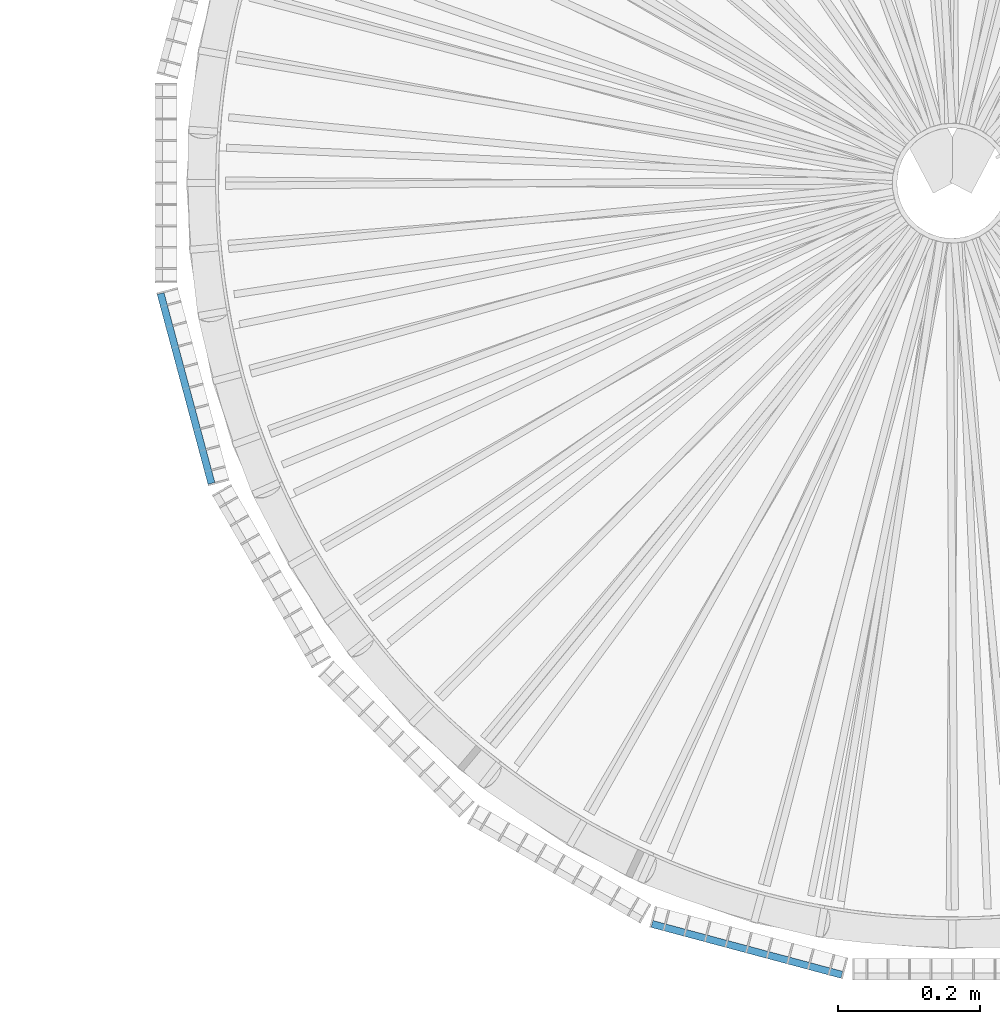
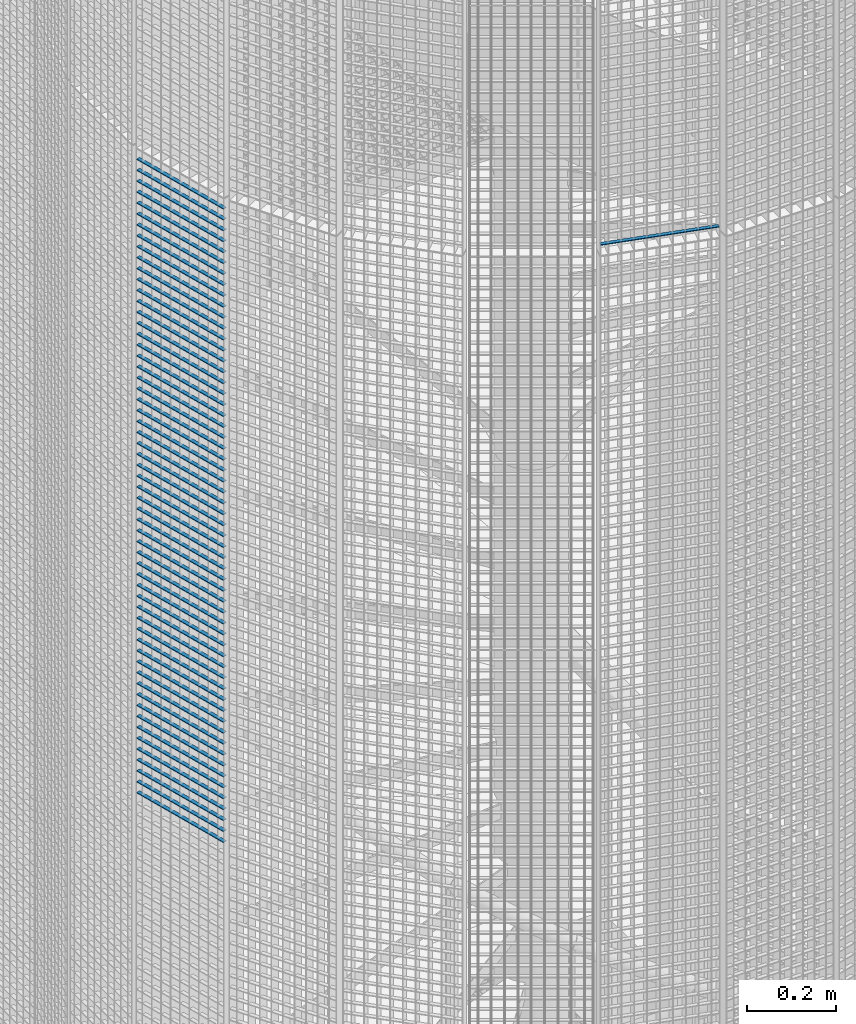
# One storey, part 332 of 1148: 60 beams, 2 elements without a shape of their own.
"""IFC2X3 building model written with IfcOpenShell, lengths in millimetres."""

from ifc_helpers import new_model, si_unit, frame, origin_with_axes, origin_2d_with_axis, place, context, subcontext, project, spatial, rectangle, extrude, material, type_object, element, aggregate, save


model = new_model("IFC2X3")

# Units and contexts
model_context = context("Model", 3, precision=1e-05, world=origin_with_axes())
body_context = subcontext(model_context, "Body", "Model", "MODEL_VIEW")
ifc_project = project(units=[si_unit("LENGTHUNIT", "METRE", prefix="MILLI"), si_unit("AREAUNIT", "SQUARE_METRE"), si_unit("VOLUMEUNIT", "CUBIC_METRE"), si_unit("MASSUNIT", "GRAM", prefix="KILO"), si_unit("TIMEUNIT", "SECOND"), si_unit("PLANEANGLEUNIT", "RADIAN"), si_unit("SOLIDANGLEUNIT", "STERADIAN"), si_unit("THERMODYNAMICTEMPERATUREUNIT", "DEGREE_CELSIUS"), si_unit("LUMINOUSINTENSITYUNIT", "LUMEN")], contexts=[model_context])

# Site, building, storey
site_placement = place(None, origin_with_axes())
site = spatial("IfcSite", under=ifc_project, at=site_placement, Name="Undefined", CompositionType="ELEMENT")
building_placement = place(site_placement, origin_with_axes())
building = spatial("IfcBuilding", under=site, at=building_placement, Name="Undefined", CompositionType="ELEMENT")
storey_placement = place(building_placement, origin_with_axes())
storey = spatial("IfcBuildingStorey", under=building, at=storey_placement, Name="Undefined", CompositionType="ELEMENT", Elevation=0.0)

# Assembly, beam
assembly_1_placement = place(storey_placement, origin_with_axes())
assembly_1 = element("IfcElementAssembly", 1, at=assembly_1_placement, inside=storey, Name="BORDURE", AssemblyPlace="NOTDEFINED", PredefinedType="NOTDEFINED")
ifc_material = material(Name="STEEL/S235JR")
beam_type = type_object("IfcBeamType", Name="PL2*10", PredefinedType="NOTDEFINED")
beam_1_placement = place(assembly_1_placement, frame((21445.1040732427, -1111.25508286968, 15030.0), z_axis=(-0.258819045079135, -0.965925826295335, 0.0), x_axis=(-0.965925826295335, 0.258819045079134, 0.0)))
beam_1 = element("IfcBeam", 2, at=beam_1_placement, type_object=beam_type, material=ifc_material, Name="ENTRETOISE", context=body_context, shape_type="SweptSolid", body=[
    extrude(rectangle(XDim=2.0, YDim=10.0, at=origin_2d_with_axis()), frame((275.999999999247, 9.09494701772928e-13, 1.53210777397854e-14), z_axis=(-1.0, 0.0, 0.0), x_axis=(0.0, -1.0, 0.0)), (0.0, 0.0, 1.0), 276.0),
])
aggregate(assembly_1, [beam_1])

# Assembly, beams
assembly_2_placement = place(storey_placement, origin_with_axes())
assembly_2 = element("IfcElementAssembly", 3, at=assembly_2_placement, inside=storey, Name="BORDURE", AssemblyPlace="NOTDEFINED", PredefinedType="NOTDEFINED")
beam_2_placement = place(assembly_2_placement, frame((20560.1769047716, -421.483733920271, 14970.0), z_axis=(-0.965925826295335, -0.258819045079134, 0.0), x_axis=(-0.258819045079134, 0.965925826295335, 0.0)))
beam_2 = element("IfcBeam", 4, at=beam_2_placement, type_object=beam_type, material=ifc_material, Name="ENTRETOISE", context=body_context, shape_type="SweptSolid", body=[
    extrude(rectangle(XDim=2.0, YDim=10.0, at=origin_2d_with_axis()), frame((275.999999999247, 9.09494701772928e-13, 1.53210777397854e-14), z_axis=(-1.0, 0.0, 0.0), x_axis=(0.0, -1.0, 0.0)), (0.0, 0.0, 1.0), 276.0),
])
beam_3_placement = place(assembly_2_placement, frame((20560.1769047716, -421.483733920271, 14940.0), z_axis=(-0.965925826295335, -0.258819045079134, 0.0), x_axis=(-0.258819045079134, 0.965925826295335, 0.0)))
beam_3 = element("IfcBeam", 5, at=beam_3_placement, type_object=beam_type, material=ifc_material, Name="ENTRETOISE", context=body_context, shape_type="SweptSolid", body=[
    extrude(rectangle(XDim=2.0, YDim=10.0, at=origin_2d_with_axis()), frame((275.999999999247, 9.09494701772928e-13, 1.53210777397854e-14), z_axis=(-1.0, 0.0, 0.0), x_axis=(0.0, -1.0, 0.0)), (0.0, 0.0, 1.0), 276.0),
])
beam_4_placement = place(assembly_2_placement, frame((20560.1769047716, -421.483733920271, 14910.0), z_axis=(-0.965925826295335, -0.258819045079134, 0.0), x_axis=(-0.258819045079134, 0.965925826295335, 0.0)))
beam_4 = element("IfcBeam", 6, at=beam_4_placement, type_object=beam_type, material=ifc_material, Name="ENTRETOISE", context=body_context, shape_type="SweptSolid", body=[
    extrude(rectangle(XDim=2.0, YDim=10.0, at=origin_2d_with_axis()), frame((275.999999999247, 9.09494701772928e-13, 1.53210777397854e-14), z_axis=(-1.0, 0.0, 0.0), x_axis=(0.0, -1.0, 0.0)), (0.0, 0.0, 1.0), 276.0),
])
beam_5_placement = place(assembly_2_placement, frame((20560.1769047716, -421.483733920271, 14880.0), z_axis=(-0.965925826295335, -0.258819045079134, 0.0), x_axis=(-0.258819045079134, 0.965925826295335, 0.0)))
beam_5 = element("IfcBeam", 7, at=beam_5_placement, type_object=beam_type, material=ifc_material, Name="ENTRETOISE", context=body_context, shape_type="SweptSolid", body=[
    extrude(rectangle(XDim=2.0, YDim=10.0, at=origin_2d_with_axis()), frame((275.999999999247, 9.09494701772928e-13, 1.53210777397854e-14), z_axis=(-1.0, 0.0, 0.0), x_axis=(0.0, -1.0, 0.0)), (0.0, 0.0, 1.0), 276.0),
])
beam_6_placement = place(assembly_2_placement, frame((20560.1769047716, -421.483733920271, 14850.0), z_axis=(-0.965925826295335, -0.258819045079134, 0.0), x_axis=(-0.258819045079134, 0.965925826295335, 0.0)))
beam_6 = element("IfcBeam", 8, at=beam_6_placement, type_object=beam_type, material=ifc_material, Name="ENTRETOISE", context=body_context, shape_type="SweptSolid", body=[
    extrude(rectangle(XDim=2.0, YDim=10.0, at=origin_2d_with_axis()), frame((275.999999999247, 9.09494701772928e-13, 1.53210777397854e-14), z_axis=(-1.0, 0.0, 0.0), x_axis=(0.0, -1.0, 0.0)), (0.0, 0.0, 1.0), 276.0),
])
beam_7_placement = place(assembly_2_placement, frame((20560.1769047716, -421.483733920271, 14820.0), z_axis=(-0.965925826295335, -0.258819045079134, 0.0), x_axis=(-0.258819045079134, 0.965925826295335, 0.0)))
beam_7 = element("IfcBeam", 9, at=beam_7_placement, type_object=beam_type, material=ifc_material, Name="ENTRETOISE", context=body_context, shape_type="SweptSolid", body=[
    extrude(rectangle(XDim=2.0, YDim=10.0, at=origin_2d_with_axis()), frame((275.999999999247, 9.09494701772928e-13, 1.53210777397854e-14), z_axis=(-1.0, 0.0, 0.0), x_axis=(0.0, -1.0, 0.0)), (0.0, 0.0, 1.0), 276.0),
])
beam_8_placement = place(assembly_2_placement, frame((20560.1769047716, -421.483733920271, 14790.0), z_axis=(-0.965925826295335, -0.258819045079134, 0.0), x_axis=(-0.258819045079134, 0.965925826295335, 0.0)))
beam_8 = element("IfcBeam", 10, at=beam_8_placement, type_object=beam_type, material=ifc_material, Name="ENTRETOISE", context=body_context, shape_type="SweptSolid", body=[
    extrude(rectangle(XDim=2.0, YDim=10.0, at=origin_2d_with_axis()), frame((275.999999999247, 9.09494701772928e-13, 1.53210777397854e-14), z_axis=(-1.0, 0.0, 0.0), x_axis=(0.0, -1.0, 0.0)), (0.0, 0.0, 1.0), 276.0),
])
beam_9_placement = place(assembly_2_placement, frame((20560.1769047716, -421.483733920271, 14760.0), z_axis=(-0.965925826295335, -0.258819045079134, 0.0), x_axis=(-0.258819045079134, 0.965925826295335, 0.0)))
beam_9 = element("IfcBeam", 11, at=beam_9_placement, type_object=beam_type, material=ifc_material, Name="ENTRETOISE", context=body_context, shape_type="SweptSolid", body=[
    extrude(rectangle(XDim=2.0, YDim=10.0, at=origin_2d_with_axis()), frame((275.999999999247, 9.09494701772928e-13, 1.53210777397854e-14), z_axis=(-1.0, 0.0, 0.0), x_axis=(0.0, -1.0, 0.0)), (0.0, 0.0, 1.0), 276.0),
])
beam_10_placement = place(assembly_2_placement, frame((20560.1769047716, -421.48373392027, 14730.0), z_axis=(-0.965925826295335, -0.258819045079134, 0.0), x_axis=(-0.258819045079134, 0.965925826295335, 0.0)))
beam_10 = element("IfcBeam", 12, at=beam_10_placement, type_object=beam_type, material=ifc_material, Name="ENTRETOISE", context=body_context, shape_type="SweptSolid", body=[
    extrude(rectangle(XDim=2.0, YDim=10.0, at=origin_2d_with_axis()), frame((275.999999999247, 9.09494701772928e-13, 1.53210777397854e-14), z_axis=(-1.0, 0.0, 0.0), x_axis=(0.0, -1.0, 0.0)), (0.0, 0.0, 1.0), 276.0),
])
beam_11_placement = place(assembly_2_placement, frame((20560.1769047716, -421.48373392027, 14700.0), z_axis=(-0.965925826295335, -0.258819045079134, 0.0), x_axis=(-0.258819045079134, 0.965925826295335, 0.0)))
beam_11 = element("IfcBeam", 13, at=beam_11_placement, type_object=beam_type, material=ifc_material, Name="ENTRETOISE", context=body_context, shape_type="SweptSolid", body=[
    extrude(rectangle(XDim=2.0, YDim=10.0, at=origin_2d_with_axis()), frame((275.999999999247, 9.09494701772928e-13, 1.53210777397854e-14), z_axis=(-1.0, 0.0, 0.0), x_axis=(0.0, -1.0, 0.0)), (0.0, 0.0, 1.0), 276.0),
])
beam_12_placement = place(assembly_2_placement, frame((20560.1769047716, -421.48373392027, 14670.0), z_axis=(-0.965925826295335, -0.258819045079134, 0.0), x_axis=(-0.258819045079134, 0.965925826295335, 0.0)))
beam_12 = element("IfcBeam", 14, at=beam_12_placement, type_object=beam_type, material=ifc_material, Name="ENTRETOISE", context=body_context, shape_type="SweptSolid", body=[
    extrude(rectangle(XDim=2.0, YDim=10.0, at=origin_2d_with_axis()), frame((275.999999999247, 9.09494701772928e-13, 1.53210777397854e-14), z_axis=(-1.0, 0.0, 0.0), x_axis=(0.0, -1.0, 0.0)), (0.0, 0.0, 1.0), 276.0),
])
beam_13_placement = place(assembly_2_placement, frame((20560.1769047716, -421.48373392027, 14640.0), z_axis=(-0.965925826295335, -0.258819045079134, 0.0), x_axis=(-0.258819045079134, 0.965925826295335, 0.0)))
beam_13 = element("IfcBeam", 15, at=beam_13_placement, type_object=beam_type, material=ifc_material, Name="ENTRETOISE", context=body_context, shape_type="SweptSolid", body=[
    extrude(rectangle(XDim=2.0, YDim=10.0, at=origin_2d_with_axis()), frame((275.999999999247, 9.09494701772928e-13, 1.53210777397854e-14), z_axis=(-1.0, 0.0, 0.0), x_axis=(0.0, -1.0, 0.0)), (0.0, 0.0, 1.0), 276.0),
])
beam_14_placement = place(assembly_2_placement, frame((20560.1769047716, -421.48373392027, 14610.0), z_axis=(-0.965925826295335, -0.258819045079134, 0.0), x_axis=(-0.258819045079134, 0.965925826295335, 0.0)))
beam_14 = element("IfcBeam", 16, at=beam_14_placement, type_object=beam_type, material=ifc_material, Name="ENTRETOISE", context=body_context, shape_type="SweptSolid", body=[
    extrude(rectangle(XDim=2.0, YDim=10.0, at=origin_2d_with_axis()), frame((275.999999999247, 9.09494701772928e-13, 1.53210777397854e-14), z_axis=(-1.0, 0.0, 0.0), x_axis=(0.0, -1.0, 0.0)), (0.0, 0.0, 1.0), 276.0),
])
beam_15_placement = place(assembly_2_placement, frame((20560.1769047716, -421.48373392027, 14580.0), z_axis=(-0.965925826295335, -0.258819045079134, 0.0), x_axis=(-0.258819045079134, 0.965925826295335, 0.0)))
beam_15 = element("IfcBeam", 17, at=beam_15_placement, type_object=beam_type, material=ifc_material, Name="ENTRETOISE", context=body_context, shape_type="SweptSolid", body=[
    extrude(rectangle(XDim=2.0, YDim=10.0, at=origin_2d_with_axis()), frame((275.999999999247, 9.09494701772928e-13, 1.53210777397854e-14), z_axis=(-1.0, 0.0, 0.0), x_axis=(0.0, -1.0, 0.0)), (0.0, 0.0, 1.0), 276.0),
])
beam_16_placement = place(assembly_2_placement, frame((20560.1769047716, -421.48373392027, 14550.0), z_axis=(-0.965925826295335, -0.258819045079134, 0.0), x_axis=(-0.258819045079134, 0.965925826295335, 0.0)))
beam_16 = element("IfcBeam", 18, at=beam_16_placement, type_object=beam_type, material=ifc_material, Name="ENTRETOISE", context=body_context, shape_type="SweptSolid", body=[
    extrude(rectangle(XDim=2.0, YDim=10.0, at=origin_2d_with_axis()), frame((275.999999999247, 9.09494701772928e-13, 1.53210777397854e-14), z_axis=(-1.0, 0.0, 0.0), x_axis=(0.0, -1.0, 0.0)), (0.0, 0.0, 1.0), 276.0),
])
beam_17_placement = place(assembly_2_placement, frame((20560.1769047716, -421.48373392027, 14520.0), z_axis=(-0.965925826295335, -0.258819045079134, 0.0), x_axis=(-0.258819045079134, 0.965925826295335, 0.0)))
beam_17 = element("IfcBeam", 19, at=beam_17_placement, type_object=beam_type, material=ifc_material, Name="ENTRETOISE", context=body_context, shape_type="SweptSolid", body=[
    extrude(rectangle(XDim=2.0, YDim=10.0, at=origin_2d_with_axis()), frame((275.999999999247, 9.09494701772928e-13, 1.53210777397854e-14), z_axis=(-1.0, 0.0, 0.0), x_axis=(0.0, -1.0, 0.0)), (0.0, 0.0, 1.0), 276.0),
])
beam_18_placement = place(assembly_2_placement, frame((20560.1769047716, -421.48373392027, 14490.0), z_axis=(-0.965925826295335, -0.258819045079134, 0.0), x_axis=(-0.258819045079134, 0.965925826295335, 0.0)))
beam_18 = element("IfcBeam", 20, at=beam_18_placement, type_object=beam_type, material=ifc_material, Name="ENTRETOISE", context=body_context, shape_type="SweptSolid", body=[
    extrude(rectangle(XDim=2.0, YDim=10.0, at=origin_2d_with_axis()), frame((275.999999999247, 9.09494701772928e-13, 1.53210777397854e-14), z_axis=(-1.0, 0.0, 0.0), x_axis=(0.0, -1.0, 0.0)), (0.0, 0.0, 1.0), 276.0),
])
beam_19_placement = place(assembly_2_placement, frame((20560.1769047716, -421.483733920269, 14460.0), z_axis=(-0.965925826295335, -0.258819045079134, 0.0), x_axis=(-0.258819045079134, 0.965925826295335, 0.0)))
beam_19 = element("IfcBeam", 21, at=beam_19_placement, type_object=beam_type, material=ifc_material, Name="ENTRETOISE", context=body_context, shape_type="SweptSolid", body=[
    extrude(rectangle(XDim=2.0, YDim=10.0, at=origin_2d_with_axis()), frame((275.999999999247, 9.09494701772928e-13, 1.53210777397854e-14), z_axis=(-1.0, 0.0, 0.0), x_axis=(0.0, -1.0, 0.0)), (0.0, 0.0, 1.0), 276.0),
])
beam_20_placement = place(assembly_2_placement, frame((20560.1769047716, -421.483733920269, 14430.0), z_axis=(-0.965925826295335, -0.258819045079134, 0.0), x_axis=(-0.258819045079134, 0.965925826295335, 0.0)))
beam_20 = element("IfcBeam", 22, at=beam_20_placement, type_object=beam_type, material=ifc_material, Name="ENTRETOISE", context=body_context, shape_type="SweptSolid", body=[
    extrude(rectangle(XDim=2.0, YDim=10.0, at=origin_2d_with_axis()), frame((275.999999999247, 9.09494701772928e-13, 1.53210777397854e-14), z_axis=(-1.0, 0.0, 0.0), x_axis=(0.0, -1.0, 0.0)), (0.0, 0.0, 1.0), 276.0),
])
beam_21_placement = place(assembly_2_placement, frame((20560.1769047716, -421.483733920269, 14400.0), z_axis=(-0.965925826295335, -0.258819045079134, 0.0), x_axis=(-0.258819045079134, 0.965925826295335, 0.0)))
beam_21 = element("IfcBeam", 23, at=beam_21_placement, type_object=beam_type, material=ifc_material, Name="ENTRETOISE", context=body_context, shape_type="SweptSolid", body=[
    extrude(rectangle(XDim=2.0, YDim=10.0, at=origin_2d_with_axis()), frame((275.999999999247, 9.09494701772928e-13, 1.53210777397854e-14), z_axis=(-1.0, 0.0, 0.0), x_axis=(0.0, -1.0, 0.0)), (0.0, 0.0, 1.0), 276.0),
])
beam_22_placement = place(assembly_2_placement, frame((20560.1769047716, -421.483733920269, 14370.0), z_axis=(-0.965925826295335, -0.258819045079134, 0.0), x_axis=(-0.258819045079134, 0.965925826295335, 0.0)))
beam_22 = element("IfcBeam", 24, at=beam_22_placement, type_object=beam_type, material=ifc_material, Name="ENTRETOISE", context=body_context, shape_type="SweptSolid", body=[
    extrude(rectangle(XDim=2.0, YDim=10.0, at=origin_2d_with_axis()), frame((275.999999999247, 9.09494701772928e-13, 1.53210777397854e-14), z_axis=(-1.0, 0.0, 0.0), x_axis=(0.0, -1.0, 0.0)), (0.0, 0.0, 1.0), 276.0),
])
beam_23_placement = place(assembly_2_placement, frame((20560.1769047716, -421.483733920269, 14340.0), z_axis=(-0.965925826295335, -0.258819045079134, 0.0), x_axis=(-0.258819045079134, 0.965925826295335, 0.0)))
beam_23 = element("IfcBeam", 25, at=beam_23_placement, type_object=beam_type, material=ifc_material, Name="ENTRETOISE", context=body_context, shape_type="SweptSolid", body=[
    extrude(rectangle(XDim=2.0, YDim=10.0, at=origin_2d_with_axis()), frame((275.999999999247, 9.09494701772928e-13, 1.53210777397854e-14), z_axis=(-1.0, 0.0, 0.0), x_axis=(0.0, -1.0, 0.0)), (0.0, 0.0, 1.0), 276.0),
])
beam_24_placement = place(assembly_2_placement, frame((20560.1769047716, -421.483733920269, 14310.0), z_axis=(-0.965925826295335, -0.258819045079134, 0.0), x_axis=(-0.258819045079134, 0.965925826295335, 0.0)))
beam_24 = element("IfcBeam", 26, at=beam_24_placement, type_object=beam_type, material=ifc_material, Name="ENTRETOISE", context=body_context, shape_type="SweptSolid", body=[
    extrude(rectangle(XDim=2.0, YDim=10.0, at=origin_2d_with_axis()), frame((275.999999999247, 9.09494701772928e-13, 1.53210777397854e-14), z_axis=(-1.0, 0.0, 0.0), x_axis=(0.0, -1.0, 0.0)), (0.0, 0.0, 1.0), 276.0),
])
beam_25_placement = place(assembly_2_placement, frame((20560.1769047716, -421.483733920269, 14280.0), z_axis=(-0.965925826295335, -0.258819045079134, 0.0), x_axis=(-0.258819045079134, 0.965925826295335, 0.0)))
beam_25 = element("IfcBeam", 27, at=beam_25_placement, type_object=beam_type, material=ifc_material, Name="ENTRETOISE", context=body_context, shape_type="SweptSolid", body=[
    extrude(rectangle(XDim=2.0, YDim=10.0, at=origin_2d_with_axis()), frame((275.999999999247, 9.09494701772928e-13, 1.53210777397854e-14), z_axis=(-1.0, 0.0, 0.0), x_axis=(0.0, -1.0, 0.0)), (0.0, 0.0, 1.0), 276.0),
])
beam_26_placement = place(assembly_2_placement, frame((20560.1769047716, -421.483733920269, 14250.0), z_axis=(-0.965925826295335, -0.258819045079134, 0.0), x_axis=(-0.258819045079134, 0.965925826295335, 0.0)))
beam_26 = element("IfcBeam", 28, at=beam_26_placement, type_object=beam_type, material=ifc_material, Name="ENTRETOISE", context=body_context, shape_type="SweptSolid", body=[
    extrude(rectangle(XDim=2.0, YDim=10.0, at=origin_2d_with_axis()), frame((275.999999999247, 9.09494701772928e-13, 1.53210777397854e-14), z_axis=(-1.0, 0.0, 0.0), x_axis=(0.0, -1.0, 0.0)), (0.0, 0.0, 1.0), 276.0),
])
beam_27_placement = place(assembly_2_placement, frame((20560.1769047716, -421.483733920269, 14220.0), z_axis=(-0.965925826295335, -0.258819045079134, 0.0), x_axis=(-0.258819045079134, 0.965925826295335, 0.0)))
beam_27 = element("IfcBeam", 29, at=beam_27_placement, type_object=beam_type, material=ifc_material, Name="ENTRETOISE", context=body_context, shape_type="SweptSolid", body=[
    extrude(rectangle(XDim=2.0, YDim=10.0, at=origin_2d_with_axis()), frame((275.999999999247, 9.09494701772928e-13, 1.53210777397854e-14), z_axis=(-1.0, 0.0, 0.0), x_axis=(0.0, -1.0, 0.0)), (0.0, 0.0, 1.0), 276.0),
])
beam_28_placement = place(assembly_2_placement, frame((20560.1769047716, -421.483733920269, 14190.0), z_axis=(-0.965925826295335, -0.258819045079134, 0.0), x_axis=(-0.258819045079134, 0.965925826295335, 0.0)))
beam_28 = element("IfcBeam", 30, at=beam_28_placement, type_object=beam_type, material=ifc_material, Name="ENTRETOISE", context=body_context, shape_type="SweptSolid", body=[
    extrude(rectangle(XDim=2.0, YDim=10.0, at=origin_2d_with_axis()), frame((275.999999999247, 9.09494701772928e-13, 1.53210777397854e-14), z_axis=(-1.0, 0.0, 0.0), x_axis=(0.0, -1.0, 0.0)), (0.0, 0.0, 1.0), 276.0),
])
beam_29_placement = place(assembly_2_placement, frame((20560.1769047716, -421.483733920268, 14160.0), z_axis=(-0.965925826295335, -0.258819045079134, 0.0), x_axis=(-0.258819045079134, 0.965925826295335, 0.0)))
beam_29 = element("IfcBeam", 31, at=beam_29_placement, type_object=beam_type, material=ifc_material, Name="ENTRETOISE", context=body_context, shape_type="SweptSolid", body=[
    extrude(rectangle(XDim=2.0, YDim=10.0, at=origin_2d_with_axis()), frame((275.999999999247, 9.09494701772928e-13, 1.53210777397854e-14), z_axis=(-1.0, 0.0, 0.0), x_axis=(0.0, -1.0, 0.0)), (0.0, 0.0, 1.0), 276.0),
])
beam_30_placement = place(assembly_2_placement, frame((20560.1769047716, -421.483733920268, 14130.0), z_axis=(-0.965925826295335, -0.258819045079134, 0.0), x_axis=(-0.258819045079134, 0.965925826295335, 0.0)))
beam_30 = element("IfcBeam", 32, at=beam_30_placement, type_object=beam_type, material=ifc_material, Name="ENTRETOISE", context=body_context, shape_type="SweptSolid", body=[
    extrude(rectangle(XDim=2.0, YDim=10.0, at=origin_2d_with_axis()), frame((275.999999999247, 9.09494701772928e-13, 1.53210777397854e-14), z_axis=(-1.0, 0.0, 0.0), x_axis=(0.0, -1.0, 0.0)), (0.0, 0.0, 1.0), 276.0),
])
beam_31_placement = place(assembly_2_placement, frame((20560.1769047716, -421.483733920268, 14100.0), z_axis=(-0.965925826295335, -0.258819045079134, 0.0), x_axis=(-0.258819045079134, 0.965925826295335, 0.0)))
beam_31 = element("IfcBeam", 33, at=beam_31_placement, type_object=beam_type, material=ifc_material, Name="ENTRETOISE", context=body_context, shape_type="SweptSolid", body=[
    extrude(rectangle(XDim=2.0, YDim=10.0, at=origin_2d_with_axis()), frame((275.999999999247, 9.09494701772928e-13, 1.53210777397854e-14), z_axis=(-1.0, 0.0, 0.0), x_axis=(0.0, -1.0, 0.0)), (0.0, 0.0, 1.0), 276.0),
])
beam_32_placement = place(assembly_2_placement, frame((20560.1769047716, -421.483733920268, 14070.0), z_axis=(-0.965925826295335, -0.258819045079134, 0.0), x_axis=(-0.258819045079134, 0.965925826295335, 0.0)))
beam_32 = element("IfcBeam", 34, at=beam_32_placement, type_object=beam_type, material=ifc_material, Name="ENTRETOISE", context=body_context, shape_type="SweptSolid", body=[
    extrude(rectangle(XDim=2.0, YDim=10.0, at=origin_2d_with_axis()), frame((275.999999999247, 9.09494701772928e-13, 1.53210777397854e-14), z_axis=(-1.0, 0.0, 0.0), x_axis=(0.0, -1.0, 0.0)), (0.0, 0.0, 1.0), 276.0),
])
beam_33_placement = place(assembly_2_placement, frame((20560.1769047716, -421.483733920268, 14040.0), z_axis=(-0.965925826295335, -0.258819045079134, 0.0), x_axis=(-0.258819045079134, 0.965925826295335, 0.0)))
beam_33 = element("IfcBeam", 35, at=beam_33_placement, type_object=beam_type, material=ifc_material, Name="ENTRETOISE", context=body_context, shape_type="SweptSolid", body=[
    extrude(rectangle(XDim=2.0, YDim=10.0, at=origin_2d_with_axis()), frame((275.999999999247, 9.09494701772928e-13, 1.53210777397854e-14), z_axis=(-1.0, 0.0, 0.0), x_axis=(0.0, -1.0, 0.0)), (0.0, 0.0, 1.0), 276.0),
])
beam_34_placement = place(assembly_2_placement, frame((20560.1769047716, -421.483733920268, 14010.0), z_axis=(-0.965925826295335, -0.258819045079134, 0.0), x_axis=(-0.258819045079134, 0.965925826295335, 0.0)))
beam_34 = element("IfcBeam", 36, at=beam_34_placement, type_object=beam_type, material=ifc_material, Name="ENTRETOISE", context=body_context, shape_type="SweptSolid", body=[
    extrude(rectangle(XDim=2.0, YDim=10.0, at=origin_2d_with_axis()), frame((275.999999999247, 9.09494701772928e-13, 1.53210777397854e-14), z_axis=(-1.0, 0.0, 0.0), x_axis=(0.0, -1.0, 0.0)), (0.0, 0.0, 1.0), 276.0),
])
beam_35_placement = place(assembly_2_placement, frame((20560.1769047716, -421.483733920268, 13980.0), z_axis=(-0.965925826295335, -0.258819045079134, 0.0), x_axis=(-0.258819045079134, 0.965925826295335, 0.0)))
beam_35 = element("IfcBeam", 37, at=beam_35_placement, type_object=beam_type, material=ifc_material, Name="ENTRETOISE", context=body_context, shape_type="SweptSolid", body=[
    extrude(rectangle(XDim=2.0, YDim=10.0, at=origin_2d_with_axis()), frame((275.999999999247, 9.09494701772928e-13, 1.53210777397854e-14), z_axis=(-1.0, 0.0, 0.0), x_axis=(0.0, -1.0, 0.0)), (0.0, 0.0, 1.0), 276.0),
])
beam_36_placement = place(assembly_2_placement, frame((20560.1769047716, -421.483733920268, 13950.0), z_axis=(-0.965925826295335, -0.258819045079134, 0.0), x_axis=(-0.258819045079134, 0.965925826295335, 0.0)))
beam_36 = element("IfcBeam", 38, at=beam_36_placement, type_object=beam_type, material=ifc_material, Name="ENTRETOISE", context=body_context, shape_type="SweptSolid", body=[
    extrude(rectangle(XDim=2.0, YDim=10.0, at=origin_2d_with_axis()), frame((275.999999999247, 9.09494701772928e-13, 1.53210777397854e-14), z_axis=(-1.0, 0.0, 0.0), x_axis=(0.0, -1.0, 0.0)), (0.0, 0.0, 1.0), 276.0),
])
beam_37_placement = place(assembly_2_placement, frame((20560.1769047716, -421.483733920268, 13920.0), z_axis=(-0.965925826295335, -0.258819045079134, 0.0), x_axis=(-0.258819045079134, 0.965925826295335, 0.0)))
beam_37 = element("IfcBeam", 39, at=beam_37_placement, type_object=beam_type, material=ifc_material, Name="ENTRETOISE", context=body_context, shape_type="SweptSolid", body=[
    extrude(rectangle(XDim=2.0, YDim=10.0, at=origin_2d_with_axis()), frame((275.999999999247, 9.09494701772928e-13, 1.53210777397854e-14), z_axis=(-1.0, 0.0, 0.0), x_axis=(0.0, -1.0, 0.0)), (0.0, 0.0, 1.0), 276.0),
])
beam_38_placement = place(assembly_2_placement, frame((20560.1769047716, -421.483733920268, 13890.0), z_axis=(-0.965925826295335, -0.258819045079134, 0.0), x_axis=(-0.258819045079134, 0.965925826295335, 0.0)))
beam_38 = element("IfcBeam", 40, at=beam_38_placement, type_object=beam_type, material=ifc_material, Name="ENTRETOISE", context=body_context, shape_type="SweptSolid", body=[
    extrude(rectangle(XDim=2.0, YDim=10.0, at=origin_2d_with_axis()), frame((275.999999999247, 9.09494701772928e-13, 1.53210777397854e-14), z_axis=(-1.0, 0.0, 0.0), x_axis=(0.0, -1.0, 0.0)), (0.0, 0.0, 1.0), 276.0),
])
beam_39_placement = place(assembly_2_placement, frame((20560.1769047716, -421.483733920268, 13860.0), z_axis=(-0.965925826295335, -0.258819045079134, 0.0), x_axis=(-0.258819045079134, 0.965925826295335, 0.0)))
beam_39 = element("IfcBeam", 41, at=beam_39_placement, type_object=beam_type, material=ifc_material, Name="ENTRETOISE", context=body_context, shape_type="SweptSolid", body=[
    extrude(rectangle(XDim=2.0, YDim=10.0, at=origin_2d_with_axis()), frame((275.999999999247, 9.09494701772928e-13, 1.53210777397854e-14), z_axis=(-1.0, 0.0, 0.0), x_axis=(0.0, -1.0, 0.0)), (0.0, 0.0, 1.0), 276.0),
])
beam_40_placement = place(assembly_2_placement, frame((20560.1769047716, -421.483733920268, 13830.0), z_axis=(-0.965925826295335, -0.258819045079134, 0.0), x_axis=(-0.258819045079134, 0.965925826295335, 0.0)))
beam_40 = element("IfcBeam", 42, at=beam_40_placement, type_object=beam_type, material=ifc_material, Name="ENTRETOISE", context=body_context, shape_type="SweptSolid", body=[
    extrude(rectangle(XDim=2.0, YDim=10.0, at=origin_2d_with_axis()), frame((275.999999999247, 9.09494701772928e-13, 1.53210777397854e-14), z_axis=(-1.0, 0.0, 0.0), x_axis=(0.0, -1.0, 0.0)), (0.0, 0.0, 1.0), 276.0),
])
beam_41_placement = place(assembly_2_placement, frame((20560.1769047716, -421.483733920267, 13800.0), z_axis=(-0.965925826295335, -0.258819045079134, 0.0), x_axis=(-0.258819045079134, 0.965925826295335, 0.0)))
beam_41 = element("IfcBeam", 43, at=beam_41_placement, type_object=beam_type, material=ifc_material, Name="ENTRETOISE", context=body_context, shape_type="SweptSolid", body=[
    extrude(rectangle(XDim=2.0, YDim=10.0, at=origin_2d_with_axis()), frame((275.999999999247, 9.09494701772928e-13, 1.53210777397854e-14), z_axis=(-1.0, 0.0, 0.0), x_axis=(0.0, -1.0, 0.0)), (0.0, 0.0, 1.0), 276.0),
])
beam_42_placement = place(assembly_2_placement, frame((20560.1769047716, -421.483733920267, 13770.0), z_axis=(-0.965925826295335, -0.258819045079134, 0.0), x_axis=(-0.258819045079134, 0.965925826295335, 0.0)))
beam_42 = element("IfcBeam", 44, at=beam_42_placement, type_object=beam_type, material=ifc_material, Name="ENTRETOISE", context=body_context, shape_type="SweptSolid", body=[
    extrude(rectangle(XDim=2.0, YDim=10.0, at=origin_2d_with_axis()), frame((275.999999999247, 9.09494701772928e-13, 1.53210777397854e-14), z_axis=(-1.0, 0.0, 0.0), x_axis=(0.0, -1.0, 0.0)), (0.0, 0.0, 1.0), 276.0),
])
beam_43_placement = place(assembly_2_placement, frame((20560.1769047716, -421.483733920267, 13740.0), z_axis=(-0.965925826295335, -0.258819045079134, 0.0), x_axis=(-0.258819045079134, 0.965925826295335, 0.0)))
beam_43 = element("IfcBeam", 45, at=beam_43_placement, type_object=beam_type, material=ifc_material, Name="ENTRETOISE", context=body_context, shape_type="SweptSolid", body=[
    extrude(rectangle(XDim=2.0, YDim=10.0, at=origin_2d_with_axis()), frame((275.999999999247, 9.09494701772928e-13, 1.53210777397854e-14), z_axis=(-1.0, 0.0, 0.0), x_axis=(0.0, -1.0, 0.0)), (0.0, 0.0, 1.0), 276.0),
])
beam_44_placement = place(assembly_2_placement, frame((20560.1769047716, -421.483733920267, 13710.0), z_axis=(-0.965925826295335, -0.258819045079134, 0.0), x_axis=(-0.258819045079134, 0.965925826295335, 0.0)))
beam_44 = element("IfcBeam", 46, at=beam_44_placement, type_object=beam_type, material=ifc_material, Name="ENTRETOISE", context=body_context, shape_type="SweptSolid", body=[
    extrude(rectangle(XDim=2.0, YDim=10.0, at=origin_2d_with_axis()), frame((275.999999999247, 9.09494701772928e-13, 1.53210777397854e-14), z_axis=(-1.0, 0.0, 0.0), x_axis=(0.0, -1.0, 0.0)), (0.0, 0.0, 1.0), 276.0),
])
beam_45_placement = place(assembly_2_placement, frame((20560.1769047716, -421.483733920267, 13680.0), z_axis=(-0.965925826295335, -0.258819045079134, 0.0), x_axis=(-0.258819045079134, 0.965925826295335, 0.0)))
beam_45 = element("IfcBeam", 47, at=beam_45_placement, type_object=beam_type, material=ifc_material, Name="ENTRETOISE", context=body_context, shape_type="SweptSolid", body=[
    extrude(rectangle(XDim=2.0, YDim=10.0, at=origin_2d_with_axis()), frame((275.999999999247, 9.09494701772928e-13, 1.53210777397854e-14), z_axis=(-1.0, 0.0, 0.0), x_axis=(0.0, -1.0, 0.0)), (0.0, 0.0, 1.0), 276.0),
])
beam_46_placement = place(assembly_2_placement, frame((20560.1769047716, -421.483733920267, 13650.0), z_axis=(-0.965925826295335, -0.258819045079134, 0.0), x_axis=(-0.258819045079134, 0.965925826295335, 0.0)))
beam_46 = element("IfcBeam", 48, at=beam_46_placement, type_object=beam_type, material=ifc_material, Name="ENTRETOISE", context=body_context, shape_type="SweptSolid", body=[
    extrude(rectangle(XDim=2.0, YDim=10.0, at=origin_2d_with_axis()), frame((275.999999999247, 9.09494701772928e-13, 1.53210777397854e-14), z_axis=(-1.0, 0.0, 0.0), x_axis=(0.0, -1.0, 0.0)), (0.0, 0.0, 1.0), 276.0),
])
beam_47_placement = place(assembly_2_placement, frame((20560.1769047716, -421.483733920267, 13620.0), z_axis=(-0.965925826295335, -0.258819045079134, 0.0), x_axis=(-0.258819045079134, 0.965925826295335, 0.0)))
beam_47 = element("IfcBeam", 49, at=beam_47_placement, type_object=beam_type, material=ifc_material, Name="ENTRETOISE", context=body_context, shape_type="SweptSolid", body=[
    extrude(rectangle(XDim=2.0, YDim=10.0, at=origin_2d_with_axis()), frame((275.999999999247, 9.09494701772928e-13, 1.53210777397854e-14), z_axis=(-1.0, 0.0, 0.0), x_axis=(0.0, -1.0, 0.0)), (0.0, 0.0, 1.0), 276.0),
])
beam_48_placement = place(assembly_2_placement, frame((20560.1769047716, -421.483733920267, 13590.0), z_axis=(-0.965925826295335, -0.258819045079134, 0.0), x_axis=(-0.258819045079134, 0.965925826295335, 0.0)))
beam_48 = element("IfcBeam", 50, at=beam_48_placement, type_object=beam_type, material=ifc_material, Name="ENTRETOISE", context=body_context, shape_type="SweptSolid", body=[
    extrude(rectangle(XDim=2.0, YDim=10.0, at=origin_2d_with_axis()), frame((275.999999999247, 9.09494701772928e-13, 1.53210777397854e-14), z_axis=(-1.0, 0.0, 0.0), x_axis=(0.0, -1.0, 0.0)), (0.0, 0.0, 1.0), 276.0),
])
beam_49_placement = place(assembly_2_placement, frame((20560.1769047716, -421.483733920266, 13560.0), z_axis=(-0.965925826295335, -0.258819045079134, 0.0), x_axis=(-0.258819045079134, 0.965925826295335, 0.0)))
beam_49 = element("IfcBeam", 51, at=beam_49_placement, type_object=beam_type, material=ifc_material, Name="ENTRETOISE", context=body_context, shape_type="SweptSolid", body=[
    extrude(rectangle(XDim=2.0, YDim=10.0, at=origin_2d_with_axis()), frame((275.999999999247, 9.09494701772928e-13, 1.53210777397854e-14), z_axis=(-1.0, 0.0, 0.0), x_axis=(0.0, -1.0, 0.0)), (0.0, 0.0, 1.0), 276.0),
])
beam_50_placement = place(assembly_2_placement, frame((20560.1769047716, -421.483733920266, 13530.0), z_axis=(-0.965925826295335, -0.258819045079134, 0.0), x_axis=(-0.258819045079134, 0.965925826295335, 0.0)))
beam_50 = element("IfcBeam", 52, at=beam_50_placement, type_object=beam_type, material=ifc_material, Name="ENTRETOISE", context=body_context, shape_type="SweptSolid", body=[
    extrude(rectangle(XDim=2.0, YDim=10.0, at=origin_2d_with_axis()), frame((275.999999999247, 9.09494701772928e-13, 1.53210777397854e-14), z_axis=(-1.0, 0.0, 0.0), x_axis=(0.0, -1.0, 0.0)), (0.0, 0.0, 1.0), 276.0),
])
beam_51_placement = place(assembly_2_placement, frame((20560.1769047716, -421.483733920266, 13500.0), z_axis=(-0.965925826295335, -0.258819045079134, 0.0), x_axis=(-0.258819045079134, 0.965925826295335, 0.0)))
beam_51 = element("IfcBeam", 53, at=beam_51_placement, type_object=beam_type, material=ifc_material, Name="ENTRETOISE", context=body_context, shape_type="SweptSolid", body=[
    extrude(rectangle(XDim=2.0, YDim=10.0, at=origin_2d_with_axis()), frame((275.999999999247, 9.09494701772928e-13, 1.53210777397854e-14), z_axis=(-1.0, 0.0, 0.0), x_axis=(0.0, -1.0, 0.0)), (0.0, 0.0, 1.0), 276.0),
])
beam_52_placement = place(assembly_2_placement, frame((20560.1769047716, -421.483733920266, 13470.0), z_axis=(-0.965925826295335, -0.258819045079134, 0.0), x_axis=(-0.258819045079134, 0.965925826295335, 0.0)))
beam_52 = element("IfcBeam", 54, at=beam_52_placement, type_object=beam_type, material=ifc_material, Name="ENTRETOISE", context=body_context, shape_type="SweptSolid", body=[
    extrude(rectangle(XDim=2.0, YDim=10.0, at=origin_2d_with_axis()), frame((275.999999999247, 9.09494701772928e-13, 1.53210777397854e-14), z_axis=(-1.0, 0.0, 0.0), x_axis=(0.0, -1.0, 0.0)), (0.0, 0.0, 1.0), 276.0),
])
beam_53_placement = place(assembly_2_placement, frame((20560.1769047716, -421.483733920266, 13440.0), z_axis=(-0.965925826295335, -0.258819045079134, 0.0), x_axis=(-0.258819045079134, 0.965925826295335, 0.0)))
beam_53 = element("IfcBeam", 55, at=beam_53_placement, type_object=beam_type, material=ifc_material, Name="ENTRETOISE", context=body_context, shape_type="SweptSolid", body=[
    extrude(rectangle(XDim=2.0, YDim=10.0, at=origin_2d_with_axis()), frame((275.999999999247, 9.09494701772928e-13, 1.53210777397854e-14), z_axis=(-1.0, 0.0, 0.0), x_axis=(0.0, -1.0, 0.0)), (0.0, 0.0, 1.0), 276.0),
])
beam_54_placement = place(assembly_2_placement, frame((20560.1769047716, -421.483733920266, 13410.0), z_axis=(-0.965925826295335, -0.258819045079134, 0.0), x_axis=(-0.258819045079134, 0.965925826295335, 0.0)))
beam_54 = element("IfcBeam", 56, at=beam_54_placement, type_object=beam_type, material=ifc_material, Name="ENTRETOISE", context=body_context, shape_type="SweptSolid", body=[
    extrude(rectangle(XDim=2.0, YDim=10.0, at=origin_2d_with_axis()), frame((275.999999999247, 9.09494701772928e-13, 1.53210777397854e-14), z_axis=(-1.0, 0.0, 0.0), x_axis=(0.0, -1.0, 0.0)), (0.0, 0.0, 1.0), 276.0),
])
beam_55_placement = place(assembly_2_placement, frame((20560.1769047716, -421.483733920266, 13380.0), z_axis=(-0.965925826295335, -0.258819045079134, 0.0), x_axis=(-0.258819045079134, 0.965925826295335, 0.0)))
beam_55 = element("IfcBeam", 57, at=beam_55_placement, type_object=beam_type, material=ifc_material, Name="ENTRETOISE", context=body_context, shape_type="SweptSolid", body=[
    extrude(rectangle(XDim=2.0, YDim=10.0, at=origin_2d_with_axis()), frame((275.999999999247, 9.09494701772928e-13, 1.53210777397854e-14), z_axis=(-1.0, 0.0, 0.0), x_axis=(0.0, -1.0, 0.0)), (0.0, 0.0, 1.0), 276.0),
])
beam_56_placement = place(assembly_2_placement, frame((20560.1769047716, -421.483733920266, 13350.0), z_axis=(-0.965925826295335, -0.258819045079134, 0.0), x_axis=(-0.258819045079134, 0.965925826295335, 0.0)))
beam_56 = element("IfcBeam", 58, at=beam_56_placement, type_object=beam_type, material=ifc_material, Name="ENTRETOISE", context=body_context, shape_type="SweptSolid", body=[
    extrude(rectangle(XDim=2.0, YDim=10.0, at=origin_2d_with_axis()), frame((275.999999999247, 9.09494701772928e-13, 1.53210777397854e-14), z_axis=(-1.0, 0.0, 0.0), x_axis=(0.0, -1.0, 0.0)), (0.0, 0.0, 1.0), 276.0),
])
beam_57_placement = place(assembly_2_placement, frame((20560.1769047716, -421.483733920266, 13320.0), z_axis=(-0.965925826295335, -0.258819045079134, 0.0), x_axis=(-0.258819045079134, 0.965925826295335, 0.0)))
beam_57 = element("IfcBeam", 59, at=beam_57_placement, type_object=beam_type, material=ifc_material, Name="ENTRETOISE", context=body_context, shape_type="SweptSolid", body=[
    extrude(rectangle(XDim=2.0, YDim=10.0, at=origin_2d_with_axis()), frame((275.999999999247, 9.09494701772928e-13, 1.53210777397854e-14), z_axis=(-1.0, 0.0, 0.0), x_axis=(0.0, -1.0, 0.0)), (0.0, 0.0, 1.0), 276.0),
])
beam_58_placement = place(assembly_2_placement, frame((20560.1769047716, -421.483733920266, 13290.0), z_axis=(-0.965925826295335, -0.258819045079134, 0.0), x_axis=(-0.258819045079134, 0.965925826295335, 0.0)))
beam_58 = element("IfcBeam", 60, at=beam_58_placement, type_object=beam_type, material=ifc_material, Name="ENTRETOISE", context=body_context, shape_type="SweptSolid", body=[
    extrude(rectangle(XDim=2.0, YDim=10.0, at=origin_2d_with_axis()), frame((275.999999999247, 9.09494701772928e-13, 1.53210777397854e-14), z_axis=(-1.0, 0.0, 0.0), x_axis=(0.0, -1.0, 0.0)), (0.0, 0.0, 1.0), 276.0),
])
beam_59_placement = place(assembly_2_placement, frame((20560.1769047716, -421.483733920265, 13260.0), z_axis=(-0.965925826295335, -0.258819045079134, 0.0), x_axis=(-0.258819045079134, 0.965925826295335, 0.0)))
beam_59 = element("IfcBeam", 61, at=beam_59_placement, type_object=beam_type, material=ifc_material, Name="ENTRETOISE", context=body_context, shape_type="SweptSolid", body=[
    extrude(rectangle(XDim=2.0, YDim=10.0, at=origin_2d_with_axis()), frame((275.999999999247, 9.09494701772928e-13, 1.53210777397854e-14), z_axis=(-1.0, 0.0, 0.0), x_axis=(0.0, -1.0, 0.0)), (0.0, 0.0, 1.0), 276.0),
])
beam_60_placement = place(assembly_2_placement, frame((20560.1769047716, -421.483733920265, 13230.0), z_axis=(-0.965925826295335, -0.258819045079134, 0.0), x_axis=(-0.258819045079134, 0.965925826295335, 0.0)))
beam_60 = element("IfcBeam", 62, at=beam_60_placement, type_object=beam_type, material=ifc_material, Name="ENTRETOISE", context=body_context, shape_type="SweptSolid", body=[
    extrude(rectangle(XDim=2.0, YDim=10.0, at=origin_2d_with_axis()), frame((275.999999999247, 9.09494701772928e-13, 1.53210777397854e-14), z_axis=(-1.0, 0.0, 0.0), x_axis=(0.0, -1.0, 0.0)), (0.0, 0.0, 1.0), 276.0),
])
aggregate(assembly_2, [beam_2, beam_3, beam_4, beam_5, beam_6, beam_7, beam_8, beam_9, beam_10, beam_11, beam_12, beam_13, beam_14, beam_15, beam_16, beam_17, beam_18, beam_19, beam_20, beam_21, beam_22, beam_23, beam_24, beam_25, beam_26, beam_27, beam_28, beam_29, beam_30, beam_31, beam_32, beam_33, beam_34, beam_35, beam_36, beam_37, beam_38, beam_39, beam_40, beam_41, beam_42, beam_43, beam_44, beam_45, beam_46, beam_47, beam_48, beam_49, beam_50, beam_51, beam_52, beam_53, beam_54, beam_55, beam_56, beam_57, beam_58, beam_59, beam_60])

save(model, "model.ifc")
